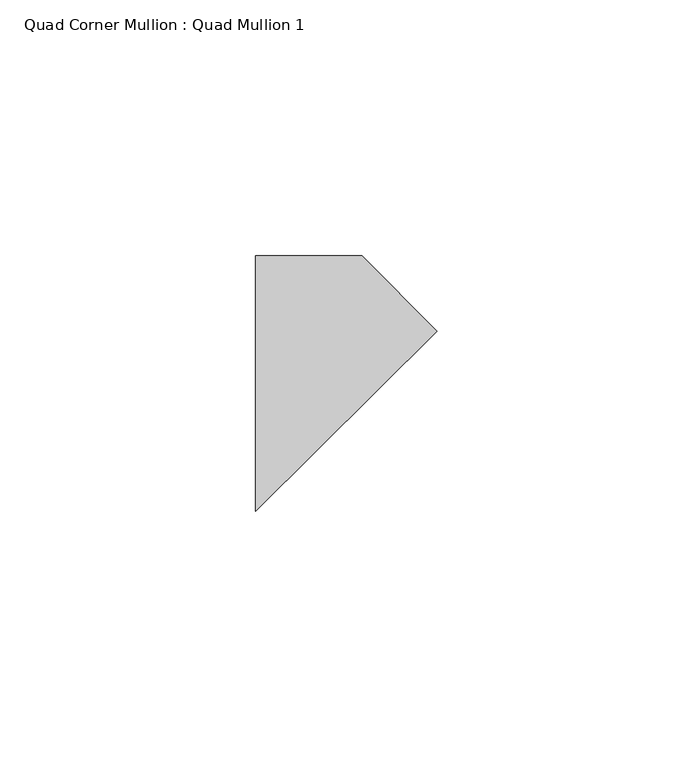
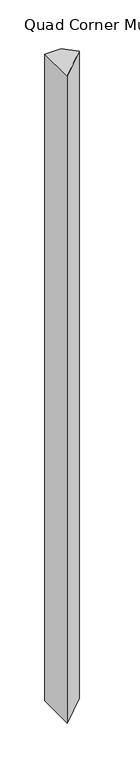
"""IFC4 building model written with IfcOpenShell, lengths in millimetres: member geometry, Quad Corner Mullion : Quad Mullion 1."""

from ifc_helpers import new_model, si_unit, frame, origin, place, context, project, spatial, polyline, outline, extrude, source, transform, mapped, element, save


def quad_corner_mullion_quad_mullion_1_d828c5d3(model_context):
    return source(origin(), model_context, "Body", "SweptSolid", [
        extrude(outline(polyline([(25.0929703, 10.1955497), (-10.4214391, -25.0), (-10.4214391, 25.0), (10.4214391, 25.0), (25.0929703, 10.1955497)])), frame((0.0, 0.0, -880.0), z_axis=(0.0, 0.0, 1.0), x_axis=(1.0, 0.0, 0.0)), (0.0, 0.0, 1.0), 880.0),
    ])


if __name__ == "__main__":
    model = new_model("IFC4")
    model_context = context("Model", 3, world=origin())
    ifc_project = project(units=[si_unit("LENGTHUNIT", "METRE", prefix="MILLI")], contexts=[model_context])
    site = spatial("IfcSite", under=ifc_project)
    building = spatial("IfcBuilding", under=site)
    placement = place(None, origin())
    quad_corner_mullion_quad_mullion_1_shape = quad_corner_mullion_quad_mullion_1_d828c5d3(model_context)
    element("IfcMember", 1, ObjectType="Quad Corner Mullion : Quad Mullion 1", at=placement, inside=building, context=model_context, shape_type="MappedRepresentation", body=[
        mapped(quad_corner_mullion_quad_mullion_1_shape, transform((0.0, 0.0, 0.0), x_axis=(1.0, 0.0, 0.0), y_axis=(0.0, 1.0, 0.0), z_axis=(0.0, 0.0, 1.0))),
    ])
    save(model, "model.ifc")
